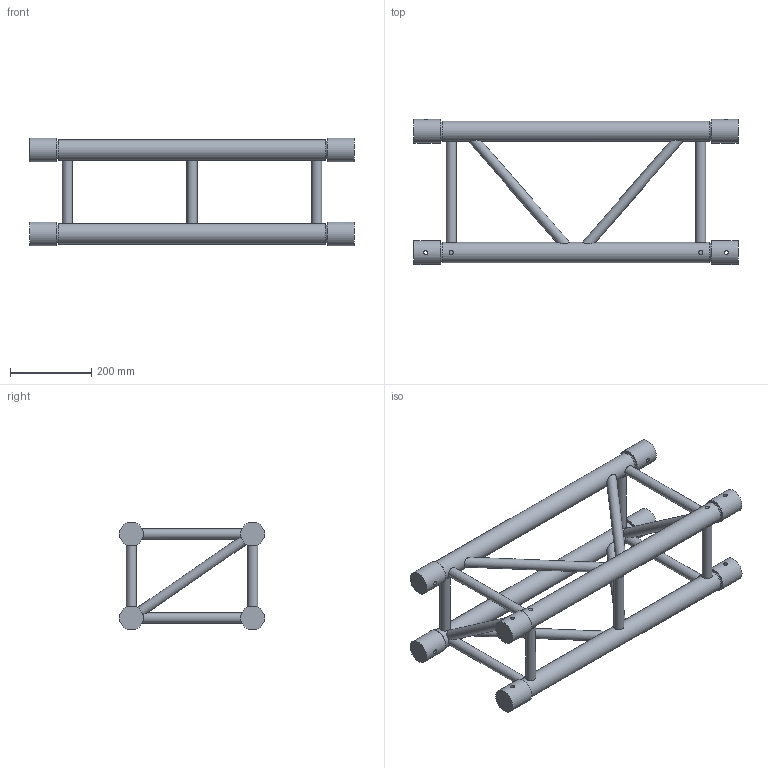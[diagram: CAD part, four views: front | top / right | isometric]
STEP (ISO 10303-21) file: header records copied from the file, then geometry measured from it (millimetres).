
FILE_DESCRIPTION(/* description */ (''),/* implementation_level */ '2;1');
FILE_NAME(/* name */ 'C:\Users\adrian.toca\Desktop\111110043.stp',/* time_stamp */ '2016-09-12T11:21:32+03:00',/* author */ ('adrian.toca'),/* organization */ (''),/* preprocessor_version */ 'ST-DEVELOPER v15.6',/* originating_system */ 'Autodesk Inventor 2015',/* authorisation */ '');
FILE_SCHEMA (('AUTOMOTIVE_DESIGN { 1 0 10303 214 3 1 1 }'));
Length unit declared in the file: millimetre
Products named in the file (1): 260030897
Bounding box: 800 x 357.8 x 265.8 mm (x, y, z)
Volume: 8467792.9 mm3; surface area: 863306.6 mm2
Topology: 7 solids, 11 shells, 157 faces, 293 edges, 170 vertices
Faces by surface type: cylinder 77, plane 72, cone 8
Full cylindrical faces by diameter (mm): 10 x8, 25 x15, 50 x4, 58.8 x8
Entity records: 5097 total; most frequent: CARTESIAN_POINT 2022, DIRECTION 582, ORIENTED_EDGE 512, AXIS2_PLACEMENT_3D 276, EDGE_LOOP 256, EDGE_CURVE 230, VERTEX_POINT 164, STYLED_ITEM 148
